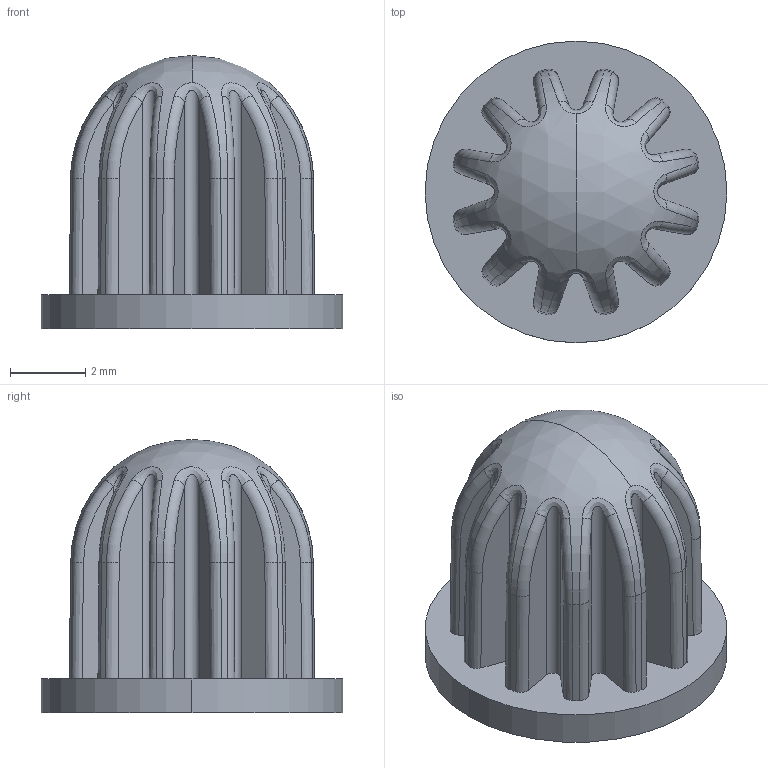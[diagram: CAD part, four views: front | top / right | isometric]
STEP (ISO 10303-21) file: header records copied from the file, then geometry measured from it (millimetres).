
FILE_DESCRIPTION (( 'STEP AP214' ), '1' );
FILE_NAME ('3DFSFA3120200A.STEP', '2021-03-31T18:13:25', ( '' ), ( '' ), 'SwSTEP 2.0', 'SolidWorks 2019', '' );
FILE_SCHEMA (( 'AUTOMOTIVE_DESIGN' ));
Length unit declared in the file: inch
Products named in the file (1): 3DFSFA3120200A
Bounding box: 8 x 8 x 7.24 mm (x, y, z)
Volume: 180.9 mm3; surface area: 301.7 mm2
Topology: 1 solids, 1 shells, 302 faces, 790 edges, 511 vertices
Faces by surface type: plane 141, bspline 104, torus 24, cylinder 19, cone 12, sphere 2
Entity records: 16799 total; most frequent: CARTESIAN_POINT 7597, ORIENTED_EDGE 1580, DIRECTION 1092, EDGE_CURVE 790, VERTEX_POINT 511, LINE 408, VECTOR 408, AXIS2_PLACEMENT_3D 342
